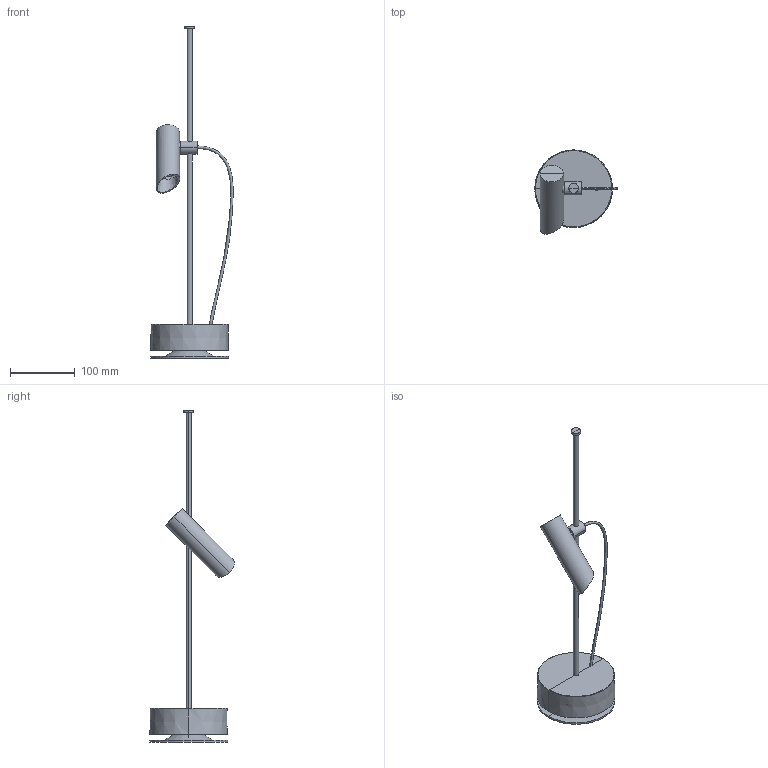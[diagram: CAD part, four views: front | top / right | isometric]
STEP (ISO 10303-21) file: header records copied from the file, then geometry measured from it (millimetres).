
FILE_DESCRIPTION(/* description */ (''),/* implementation_level */ '2;1');
FILE_NAME(/* name */ 'clap_512_beacon.step',/* time_stamp */ '2025-02-26T11:32:51+01:00',/* author */ ('RenataManzini'),/* organization */ (''),/* preprocessor_version */ 'ST-DEVELOPER v20',/* originating_system */ 'AutoCAD Mechanical',/* authorisation */ '');
FILE_SCHEMA (('AUTOMOTIVE_DESIGN { 1 0 10303 214 3 1 1 }'));
Length unit declared in the file: millimetre
Products named in the file (5): Product; CLAP_ pantalla_s - CLAP Accesorio pantalla S negro-489739-_3D_; CLAP_ lamp - CLAP Proyector-480464-_3D_; CLAP_ pantalla_l - CLAP Accesorio pantalla L negro-489746-_3D_; CLAP_ pantalla_s - CLAP Accesorio pantalla S negro-489740-_3D_
Assembly tree (4 placements, depth 2):
  Product
    CLAP_ pantalla_s - CLAP Accesorio pantalla S negro-489739-_3D_
    CLAP_ lamp - CLAP Proyector-480464-_3D_
    CLAP_ pantalla_l - CLAP Accesorio pantalla L negro-489746-_3D_
    CLAP_ pantalla_s - CLAP Accesorio pantalla S negro-489740-_3D_
Bounding box: 127.36 x 130.41 x 512 mm (x, y, z)
Volume: 410535.5 mm3; surface area: 143298.3 mm2
Topology: 7 solids, 8 shells, 79 faces, 137 edges, 77 vertices
Faces by surface type: plane 41, cylinder 20, cone 14, torus 2, bspline 2
Entity records: 3261 total; most frequent: CARTESIAN_POINT 1654, DIRECTION 358, ORIENTED_EDGE 268, AXIS2_PLACEMENT_3D 149, EDGE_CURVE 134, EDGE_LOOP 82, FACE_OUTER_BOUND 79, ADVANCED_FACE 79
